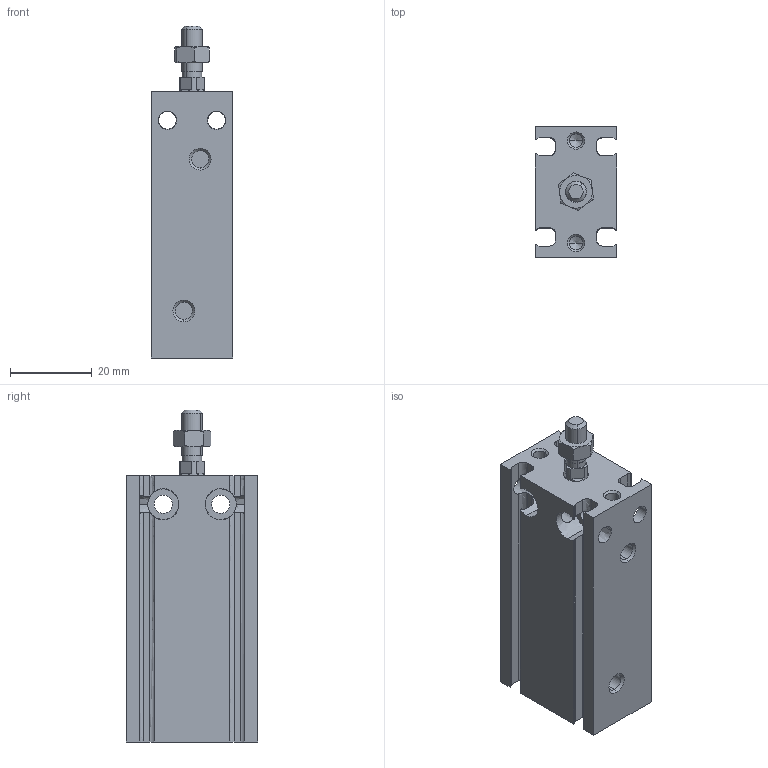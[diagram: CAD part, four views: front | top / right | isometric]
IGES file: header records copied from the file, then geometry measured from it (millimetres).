
Global section: file name: No Iges File Name specified; native system: Autodesk Inventor 2011; preprocessor: AutoDesk Inventor Iges Exporter R2011; author: airolcr1; date: 20110614.145351; units: millimetre
Bounding box: 20 x 32 x 81 mm (x, y, z)
Volume: 33982 mm3; surface area: 13993.2 mm2
Topology: 3 solids, 3 shells, 184 faces, 494 edges, 314 vertices
Faces by surface type: bspline 82, plane 54, revolution 28, cone 14, cylinder 6
